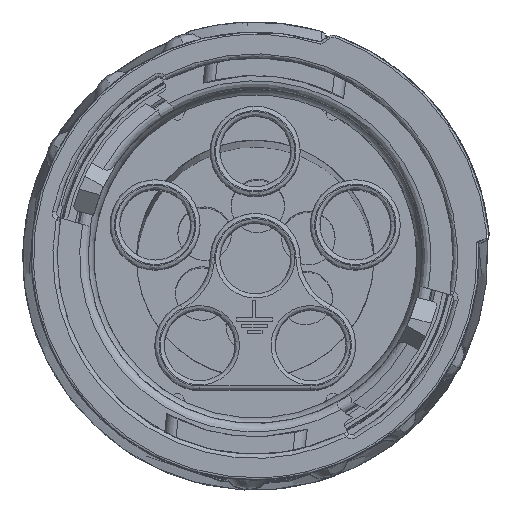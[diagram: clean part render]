
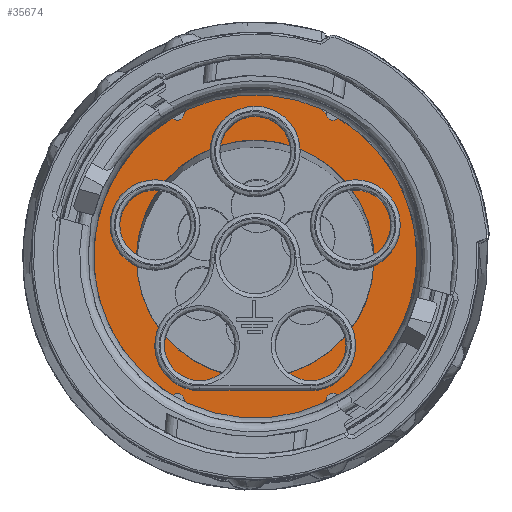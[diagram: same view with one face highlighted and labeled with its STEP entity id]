
A CAD part, top view. The second image highlights one B-rep face of the part: STEP entity #35674.
In plain terms, the highlighted planar face has unit normal (0, 0, -1).
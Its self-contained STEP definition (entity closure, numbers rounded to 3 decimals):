
#2187 = DIRECTION ( 'NONE',  ( 0., 0., -1. ) ) ;
#4966 = VERTEX_POINT ( 'NONE', #14970 ) ;
#5131 = EDGE_LOOP ( 'NONE', ( #11351 ) ) ;
#7330 = DIRECTION ( 'NONE',  ( -1., 0., 0. ) ) ;
#10161 = EDGE_LOOP ( 'NONE', ( #29645 ) ) ;
#11061 = EDGE_CURVE ( 'NONE', #4966, #4966, #16691, .T. ) ;
#11185 = FACE_OUTER_BOUND ( 'NONE', #5131, .T. ) ;
#11351 = ORIENTED_EDGE ( 'NONE', *, *, #11061, .T. ) ;
#13433 = AXIS2_PLACEMENT_3D ( 'NONE', #31256, #35146, #35972 ) ;
#14465 = DIRECTION ( 'NONE',  ( -1., 0., 0. ) ) ;
#14657 = CARTESIAN_POINT ( 'NONE',  ( 2.379, -2.769, -45.788 ) ) ;
#14970 = CARTESIAN_POINT ( 'NONE',  ( -5.313, -2.769, -45.788 ) ) ;
#16691 = CIRCLE ( 'NONE', #13433, 7.692 ) ;
#16752 = CARTESIAN_POINT ( 'NONE',  ( 2.379, -2.769, -45.788 ) ) ;
#17644 = CARTESIAN_POINT ( 'NONE',  ( -3.171, -2.769, -45.788 ) ) ;
#20199 = FACE_BOUND ( 'NONE', #10161, .T. ) ;
#20809 = PLANE ( 'NONE',  #39223 ) ;
#29269 = DIRECTION ( 'NONE',  ( 0., 0., -1. ) ) ;
#29645 = ORIENTED_EDGE ( 'NONE', *, *, #35287, .F. ) ;
#31256 = CARTESIAN_POINT ( 'NONE',  ( 2.379, -2.769, -45.788 ) ) ;
#31729 = CIRCLE ( 'NONE', #37005, 5.55 ) ;
#33225 = VERTEX_POINT ( 'NONE', #17644 ) ;
#35146 = DIRECTION ( 'NONE',  ( 0., 0., -1. ) ) ;
#35287 = EDGE_CURVE ( 'NONE', #33225, #33225, #31729, .T. ) ;
#35674 = ADVANCED_FACE ( 'NONE', ( #11185, #20199 ), #20809, .T. ) ;
#35972 = DIRECTION ( 'NONE',  ( -1., 0., 0. ) ) ;
#37005 = AXIS2_PLACEMENT_3D ( 'NONE', #16752, #29269, #7330 ) ;
#39223 = AXIS2_PLACEMENT_3D ( 'NONE', #14657, #2187, #14465 ) ;
